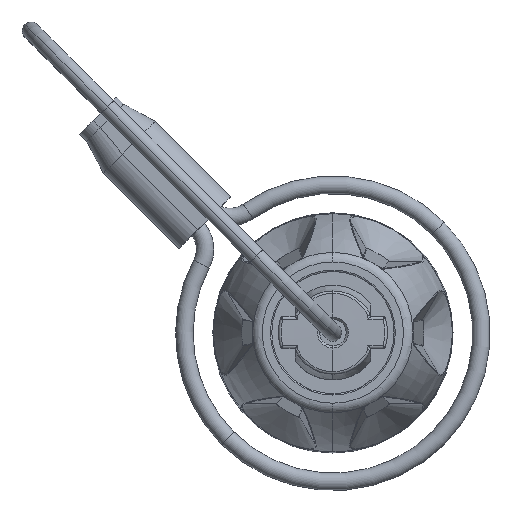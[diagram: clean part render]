
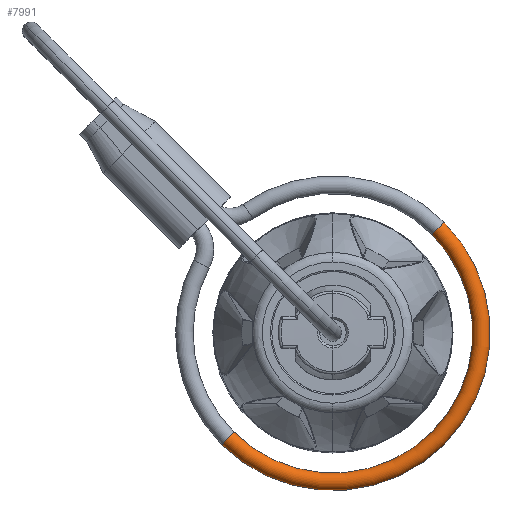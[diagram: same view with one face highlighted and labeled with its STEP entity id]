
A CAD part, top view. The second image highlights one B-rep face of the part: STEP entity #7991.
In plain terms, the highlighted toroidal (fillet/blend) face has major radius 13.97 mm and minor radius 0.825 mm.
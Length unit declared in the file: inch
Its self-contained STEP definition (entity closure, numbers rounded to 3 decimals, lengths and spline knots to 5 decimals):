
#438 = ORIENTED_EDGE ( 'NONE', *, *, #8692, .T. ) ;
#472 = EDGE_CURVE ( 'NONE', #6481, #5024, #14441, .T. ) ;
#575 = AXIS2_PLACEMENT_3D ( 'NONE', #10343, #13872, #4299 ) ;
#806 = CARTESIAN_POINT ( 'NONE',  ( 0., 0., -0.68182 ) ) ;
#1130 = CARTESIAN_POINT ( 'NONE',  ( 0., 0., -0.68182 ) ) ;
#1259 = EDGE_CURVE ( 'NONE', #2155, #6481, #11656, .T. ) ;
#1418 = DIRECTION ( 'NONE',  ( -1., 0., 0. ) ) ;
#2155 = VERTEX_POINT ( 'NONE', #7146 ) ;
#2499 = AXIS2_PLACEMENT_3D ( 'NONE', #7957, #11626, #5563 ) ;
#3193 = DIRECTION ( 'NONE',  ( 0., 0., -1. ) ) ;
#4220 = CARTESIAN_POINT ( 'NONE',  ( 0.41188, 0.41188, -0.68182 ) ) ;
#4299 = DIRECTION ( 'NONE',  ( 0.707, 0.707, 0. ) ) ;
#5024 = VERTEX_POINT ( 'NONE', #12798 ) ;
#5563 = DIRECTION ( 'NONE',  ( -0.707, -0.707, 0. ) ) ;
#5595 = ORIENTED_EDGE ( 'NONE', *, *, #472, .F. ) ;
#6205 = CARTESIAN_POINT ( 'NONE',  ( -0.36594, -0.36594, -0.68182 ) ) ;
#6253 = DIRECTION ( 'NONE',  ( 0., 0., -1. ) ) ;
#6481 = VERTEX_POINT ( 'NONE', #4220 ) ;
#6887 = EDGE_CURVE ( 'NONE', #2155, #15256, #13506, .T. ) ;
#6900 = AXIS2_PLACEMENT_3D ( 'NONE', #806, #3193, #9314 ) ;
#7146 = CARTESIAN_POINT ( 'NONE',  ( 0.36594, 0.36594, -0.68182 ) ) ;
#7843 = CARTESIAN_POINT ( 'NONE',  ( 0., 0., -0.68182 ) ) ;
#7957 = CARTESIAN_POINT ( 'NONE',  ( 0.38891, 0.38891, -0.68182 ) ) ;
#7991 = ADVANCED_FACE ( 'NONE', ( #10655 ), #10713, .T. ) ;
#8076 = AXIS2_PLACEMENT_3D ( 'NONE', #7843, #6253, #1418 ) ;
#8692 = EDGE_CURVE ( 'NONE', #15256, #5024, #8701, .T. ) ;
#8701 = CIRCLE ( 'NONE', #575, 0.03248 ) ;
#9314 = DIRECTION ( 'NONE',  ( -0.707, -0.707, 0. ) ) ;
#9801 = ORIENTED_EDGE ( 'NONE', *, *, #1259, .F. ) ;
#10343 = CARTESIAN_POINT ( 'NONE',  ( -0.38891, -0.38891, -0.68182 ) ) ;
#10655 = FACE_OUTER_BOUND ( 'NONE', #13260, .T. ) ;
#10713 = TOROIDAL_SURFACE ( 'NONE', #6900, 0.55, 0.03248 ) ;
#11626 = DIRECTION ( 'NONE',  ( -0.707, 0.707, 0. ) ) ;
#11656 = CIRCLE ( 'NONE', #2499, 0.03248 ) ;
#11971 = AXIS2_PLACEMENT_3D ( 'NONE', #1130, #12193, #13146 ) ;
#12193 = DIRECTION ( 'NONE',  ( 0., 0., -1. ) ) ;
#12798 = CARTESIAN_POINT ( 'NONE',  ( -0.41188, -0.41188, -0.68182 ) ) ;
#13146 = DIRECTION ( 'NONE',  ( -1., 0., 0. ) ) ;
#13260 = EDGE_LOOP ( 'NONE', ( #5595, #9801, #15632, #438 ) ) ;
#13506 = CIRCLE ( 'NONE', #11971, 0.51752 ) ;
#13872 = DIRECTION ( 'NONE',  ( 0.707, -0.707, 0. ) ) ;
#14441 = CIRCLE ( 'NONE', #8076, 0.58248 ) ;
#15256 = VERTEX_POINT ( 'NONE', #6205 ) ;
#15632 = ORIENTED_EDGE ( 'NONE', *, *, #6887, .T. ) ;
